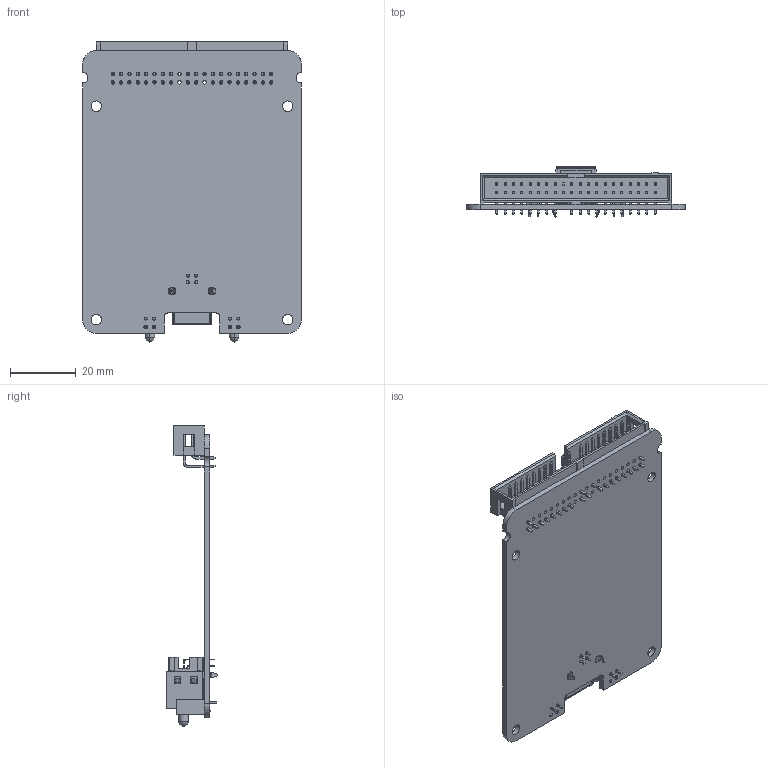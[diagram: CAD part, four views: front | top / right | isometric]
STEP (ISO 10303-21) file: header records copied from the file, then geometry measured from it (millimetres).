
FILE_DESCRIPTION((''),'2;1');
FILE_NAME('CU_USB-8452_OEM','2012-03-22T',('talbott'),(''),'PRO/ENGINEER BY PARAMETRIC TECHNOLOGY CORPORATION, 2010230','PRO/ENGINEER BY PARAMETRIC TECHNOLOGY CORPORATION, 2010230','');
FILE_SCHEMA(('CONFIG_CONTROL_DESIGN'));
Length unit declared in the file: inch
Products named in the file (1): CU_USB-8452_OEM
Bounding box: 66.55 x 15.43 x 91.39 mm (x, y, z)
Volume: 12557.2 mm3; surface area: 18883.9 mm2
Topology: 1 solids, 1 shells, 1589 faces, 4556 edges, 2974 vertices
Faces by surface type: plane 1301, cylinder 270, sphere 8, cone 8, extrusion 2
Entity records: 51803 total; most frequent: CARTESIAN_POINT 9354, ORIENTED_EDGE 9088, DIRECTION 8232, EDGE_CURVE 4544, VECTOR 3918, LINE 3916, VERTEX_POINT 2974, AXIS2_PLACEMENT_3D 2157
